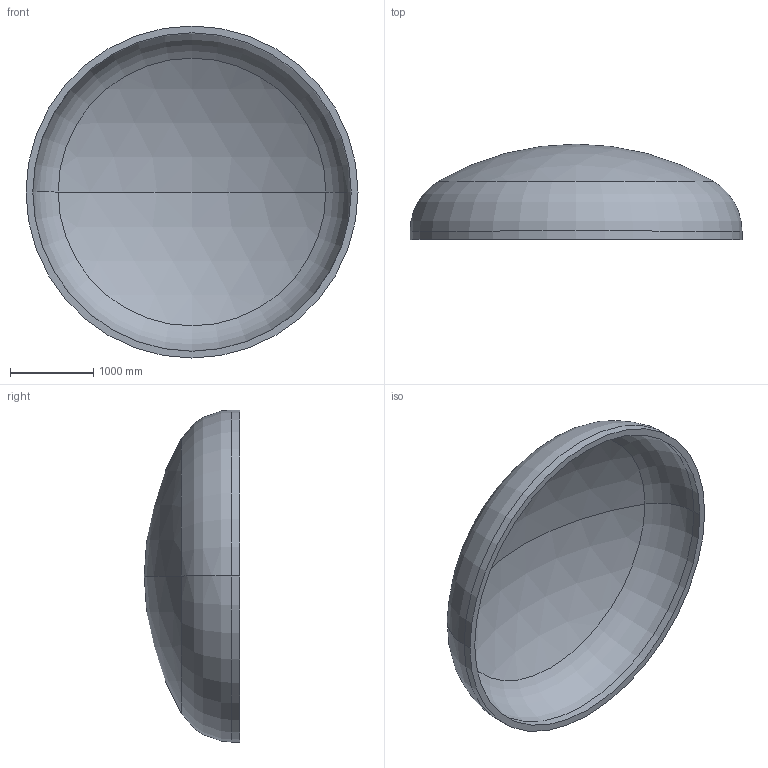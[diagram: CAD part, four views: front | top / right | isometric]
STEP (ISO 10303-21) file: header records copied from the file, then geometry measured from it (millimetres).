
FILE_DESCRIPTION (( 'STEP AP203' ), '1' );
FILE_NAME ('DIN 28013 Korbbogenform_-_Boden DIN 28013 - 4000 x 100 - I - s=82.step', '2016-07-01T22:41:49', ( '' ), ( '' ), 'SwSTEP 2.0', 'SolidWorks 2013', '' );
FILE_SCHEMA (( 'CONFIG_CONTROL_DESIGN' ));
Length unit declared in the file: millimetre
Products named in the file (1): DIN 28013 Korbbogenform_-_Boden DIN 28013 - 4000 x 100 - I - s=82
Bounding box: 4000 x 1149.42 x 4000 mm (x, y, z)
Volume: 1489643566.3 mm3; surface area: 37356158 mm2
Topology: 1 solids, 1 shells, 13 faces, 24 edges, 14 vertices
Faces by surface type: torus 4, cylinder 4, sphere 4, plane 1
Entity records: 407 total; most frequent: DIRECTION 72, CARTESIAN_POINT 52, ORIENTED_EDGE 48, AXIS2_PLACEMENT_3D 34, EDGE_CURVE 24, CIRCLE 20, VERTEX_POINT 14, EDGE_LOOP 14
